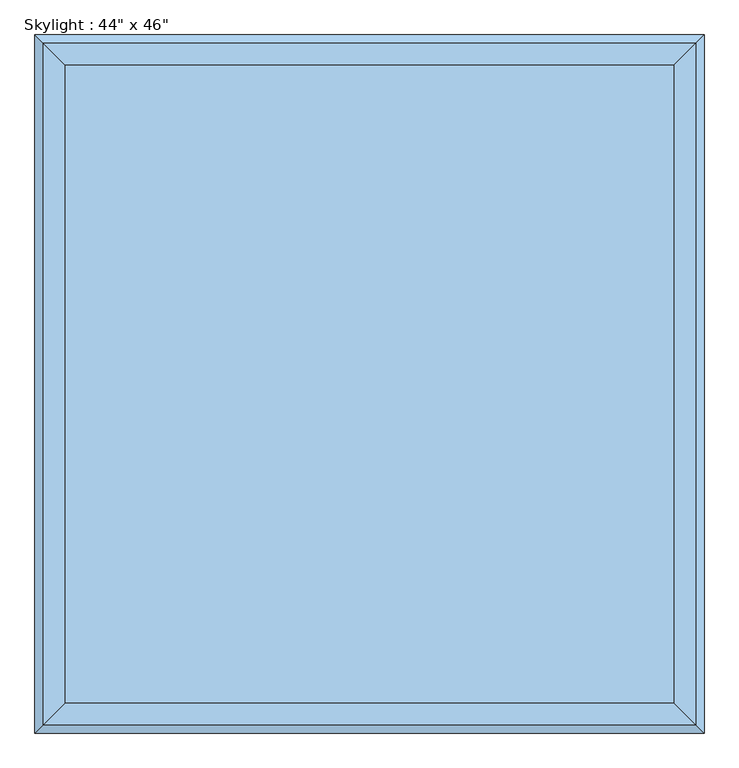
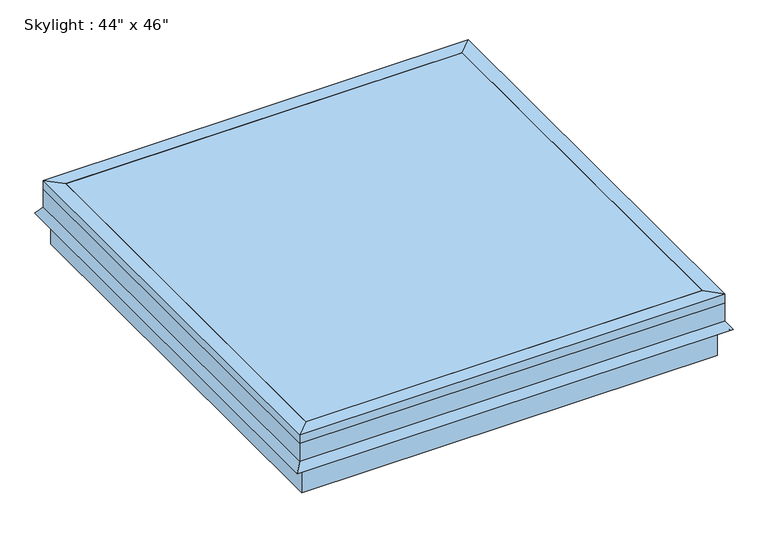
"""IFC4 building model written with IfcOpenShell, lengths in millimetres: window geometry."""

from ifc_helpers import new_model, si_unit, frame, origin, place, context, project, spatial, polyline, outline, extrude, faceted_brep, source, transform, mapped, element, save


def window_1ee978c2(model_context):
    return source(origin(), model_context, "Body", "SolidModel", [
        faceted_brep([(254.440073, -370.1040988, 4038.6), (254.440073, 747.4959012, 4038.6), (279.840073, 772.8959012, 4038.6), (279.840073, -395.5040988, 4038.6), (254.440073, -370.1040988, 4064.0), (254.440073, 747.4959012, 4064.0), (292.540073, -408.2040988, 4064.0), (292.540073, 785.5959012, 4064.0), (292.540073, -408.2040988, 4038.6), (292.540073, 785.5959012, 4038.6), (292.540073, -408.2040988, 3987.8), (292.540073, 785.5959012, 3987.8), (307.1089145, -422.7729403, 3966.9935381), (307.1089145, 800.1647427, 3966.9935381), (301.907299, -417.5713248, 3963.3513277), (301.907299, 794.9631272, 3963.3513277), (286.190073, -401.8540988, 3985.7978527), (286.190073, 779.2459012, 3985.7978527), (286.190073, -401.8540988, 4038.6), (286.190073, 779.2459012, 4038.6), (-812.359927, 747.4959012, 4038.6), (-837.759927, 772.8959012, 4038.6), (-812.359927, 747.4959012, 4064.0), (-850.459927, 785.5959012, 4064.0), (-850.459927, 785.5959012, 4038.6), (-850.459927, 785.5959012, 3987.8), (-865.0287685, 800.1647427, 3966.9935381), (-859.827153, 794.9631272, 3963.3513277), (-844.109927, 779.2459012, 3985.7978527), (-844.109927, 779.2459012, 4038.6), (-812.359927, -370.1040988, 4038.6), (-837.759927, -395.5040988, 4038.6), (-812.359927, -370.1040988, 4064.0), (-850.459927, -408.2040988, 4064.0), (-850.459927, -408.2040988, 4038.6), (-850.459927, -408.2040988, 3987.8), (-865.0287685, -422.7729403, 3966.9935381), (-859.827153, -417.5713248, 3963.3513277), (-844.109927, -401.8540988, 3985.7978527), (-844.109927, -401.8540988, 4038.6)], [[[0, 1, 2, 3]], [[4, 5, 1, 0]], [[6, 7, 5, 4]], [[8, 9, 7, 6]], [[10, 11, 9, 8]], [[12, 13, 11, 10]], [[14, 15, 13, 12]], [[16, 17, 15, 14]], [[18, 19, 17, 16]], [[3, 2, 19, 18]], [[1, 20, 21, 2]], [[5, 22, 20, 1]], [[7, 23, 22, 5]], [[9, 24, 23, 7]], [[11, 25, 24, 9]], [[13, 26, 25, 11]], [[15, 27, 26, 13]], [[17, 28, 27, 15]], [[19, 29, 28, 17]], [[2, 21, 29, 19]], [[20, 30, 31, 21]], [[22, 32, 30, 20]], [[23, 33, 32, 22]], [[24, 34, 33, 23]], [[25, 35, 34, 24]], [[26, 36, 35, 25]], [[27, 37, 36, 26]], [[28, 38, 37, 27]], [[29, 39, 38, 28]], [[21, 31, 39, 29]], [[30, 0, 3, 31]], [[32, 4, 0, 30]], [[33, 6, 4, 32]], [[34, 8, 6, 33]], [[35, 10, 8, 34]], [[36, 12, 10, 35]], [[37, 14, 12, 36]], [[38, 16, 14, 37]], [[39, 18, 16, 38]], [[31, 3, 18, 39]]]),
        faceted_brep([(279.840073, 772.8959012, 4038.6), (279.840073, -395.5040988, 4038.6), (279.840073, -395.5040988, 3886.2), (279.840073, 772.8959012, 3886.2), (254.440073, 747.4959012, 4038.6), (254.440073, -370.1040988, 4038.6), (254.440073, 747.4959012, 4013.2), (254.440073, -370.1040988, 4013.2), (235.390073, 728.4459012, 4013.2), (235.390073, -351.0540988, 4013.2), (235.390073, 728.4459012, 3886.2), (235.390073, -351.0540988, 3886.2), (-837.759927, -395.5040988, 4038.6), (-837.759927, -395.5040988, 3886.2), (-812.359927, -370.1040988, 4038.6), (-812.359927, -370.1040988, 4013.2), (-793.309927, -351.0540988, 4013.2), (-793.309927, -351.0540988, 3886.2), (-837.759927, 772.8959012, 4038.6), (-837.759927, 772.8959012, 3886.2), (-812.359927, 747.4959012, 4038.6), (-812.359927, 747.4959012, 4013.2), (-793.309927, 728.4459012, 4013.2), (-793.309927, 728.4459012, 3886.2)], [[[0, 1, 2, 3]], [[4, 5, 1, 0]], [[6, 7, 5, 4]], [[8, 9, 7, 6]], [[10, 11, 9, 8]], [[3, 2, 11, 10]], [[1, 12, 13, 2]], [[5, 14, 12, 1]], [[7, 15, 14, 5]], [[9, 16, 15, 7]], [[11, 17, 16, 9]], [[2, 13, 17, 11]], [[12, 18, 19, 13]], [[14, 20, 18, 12]], [[15, 21, 20, 14]], [[16, 22, 21, 15]], [[17, 23, 22, 16]], [[13, 19, 23, 17]], [[18, 0, 3, 19]], [[20, 4, 0, 18]], [[21, 6, 4, 20]], [[22, 8, 6, 21]], [[23, 10, 8, 22]], [[19, 3, 10, 23]]]),
        extrude(outline(polyline([(254.440073, 747.4959012), (254.440073, -370.1040988), (-812.359927, -370.1040988), (-812.359927, 747.4959012), (254.440073, 747.4959012)])), frame((0.0, 0.0, 4057.65), z_axis=(0.0, 0.0, 1.0), x_axis=(1.0, 0.0, 0.0)), (0.0, 0.0, 1.0), 6.35),
    ])


if __name__ == "__main__":
    model = new_model("IFC4")
    model_context = context("Model", 3, world=origin())
    ifc_project = project(units=[si_unit("LENGTHUNIT", "METRE", prefix="MILLI")], contexts=[model_context])
    site = spatial("IfcSite", under=ifc_project)
    building = spatial("IfcBuilding", under=site)
    placement = place(None, origin())
    window_shape = window_1ee978c2(model_context)
    element("IfcWindow", 1, ObjectType="Skylight : 44\" x 46\"", at=placement, inside=building, context=model_context, shape_type="MappedRepresentation", body=[
        mapped(window_shape, transform((0.0, 0.0, 0.0), x_axis=(1.0, 0.0, 0.0), y_axis=(0.0, 1.0, 0.0), z_axis=(0.0, 0.0, 1.0))),
    ])
    save(model, "model.ifc")
